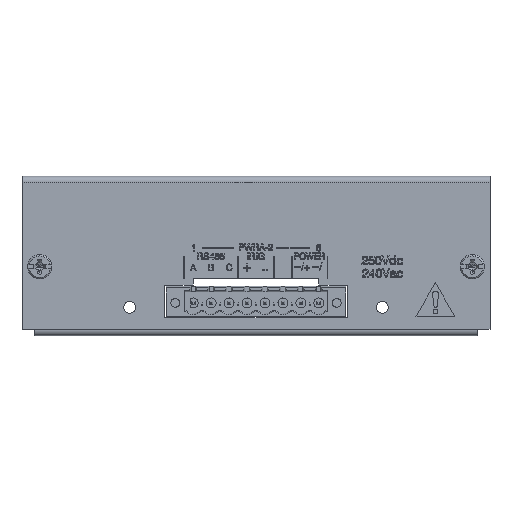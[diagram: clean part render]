
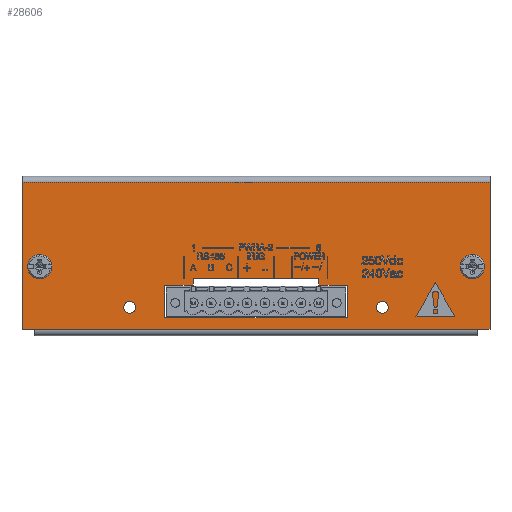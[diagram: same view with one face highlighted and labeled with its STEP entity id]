
A CAD part, top view. The second image highlights one B-rep face of the part: STEP entity #28606.
In plain terms, the highlighted planar face has unit normal (0, 0, 1) as drawn and (0, 1, 0) by its records, which use the part's own axes.
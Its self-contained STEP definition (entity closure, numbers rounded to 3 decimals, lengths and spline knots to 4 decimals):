
#1950=FACE_BOUND('',#5071,.T.);
#1951=FACE_BOUND('',#5072,.T.);
#1952=FACE_BOUND('',#5073,.T.);
#1953=FACE_BOUND('',#5074,.T.);
#1954=FACE_BOUND('',#5075,.T.);
#2097=PLANE('',#30526);
#3385=FACE_OUTER_BOUND('',#5070,.T.);
#5070=EDGE_LOOP('',(#20331,#20332,#20333,#20334,#20335,#20336,#20337,#20338));
#5071=EDGE_LOOP('',(#20339,#20340,#20341,#20342,#20343,#20344,#20345,#20346));
#5072=EDGE_LOOP('',(#20347));
#5073=EDGE_LOOP('',(#20348));
#5074=EDGE_LOOP('',(#20349,#20350));
#5075=EDGE_LOOP('',(#20351,#20352));
#6910=LINE('',#39273,#10040);
#6914=LINE('',#39282,#10044);
#6923=LINE('',#39309,#10053);
#6924=LINE('',#39313,#10054);
#6927=LINE('',#39319,#10057);
#6928=LINE('',#39323,#10058);
#6929=LINE('',#39324,#10059);
#6930=LINE('',#39325,#10060);
#6931=LINE('',#39328,#10061);
#6932=LINE('',#39330,#10062);
#6933=LINE('',#39332,#10063);
#6934=LINE('',#39334,#10064);
#6935=LINE('',#39336,#10065);
#6936=LINE('',#39338,#10066);
#6937=LINE('',#39340,#10067);
#6938=LINE('',#39341,#10068);
#10040=VECTOR('',#32434,0.3937);
#10044=VECTOR('',#32440,0.3937);
#10053=VECTOR('',#32461,0.3937);
#10054=VECTOR('',#32466,0.3937);
#10057=VECTOR('',#32471,0.3937);
#10058=VECTOR('',#32476,0.3937);
#10059=VECTOR('',#32477,0.3937);
#10060=VECTOR('',#32478,0.3937);
#10061=VECTOR('',#32479,0.3937);
#10062=VECTOR('',#32480,0.3937);
#10063=VECTOR('',#32481,0.3937);
#10064=VECTOR('',#32482,0.3937);
#10065=VECTOR('',#32483,0.3937);
#10066=VECTOR('',#32484,0.3937);
#10067=VECTOR('',#32485,0.3937);
#10068=VECTOR('',#32486,0.3937);
#13146=CIRCLE('',#30527,0.095);
#13147=CIRCLE('',#30528,0.095);
#13148=CIRCLE('',#30529,0.066);
#13149=CIRCLE('',#30530,0.066);
#13150=CIRCLE('',#30531,0.066);
#13151=CIRCLE('',#30532,0.066);
#13513=VERTEX_POINT('',#39270);
#13514=VERTEX_POINT('',#39272);
#13517=VERTEX_POINT('',#39279);
#13518=VERTEX_POINT('',#39281);
#13530=VERTEX_POINT('',#39308);
#13531=VERTEX_POINT('',#39312);
#13533=VERTEX_POINT('',#39318);
#13534=VERTEX_POINT('',#39322);
#13535=VERTEX_POINT('',#39326);
#13536=VERTEX_POINT('',#39327);
#13537=VERTEX_POINT('',#39329);
#13538=VERTEX_POINT('',#39331);
#13539=VERTEX_POINT('',#39333);
#13540=VERTEX_POINT('',#39335);
#13541=VERTEX_POINT('',#39337);
#13542=VERTEX_POINT('',#39339);
#13543=VERTEX_POINT('',#39342);
#13544=VERTEX_POINT('',#39344);
#13545=VERTEX_POINT('',#39346);
#13546=VERTEX_POINT('',#39347);
#13547=VERTEX_POINT('',#39350);
#13548=VERTEX_POINT('',#39351);
#16155=EDGE_CURVE('',#13514,#13513,#6910,.T.);
#16159=EDGE_CURVE('',#13518,#13517,#6914,.T.);
#16173=EDGE_CURVE('',#13530,#13514,#6923,.T.);
#16175=EDGE_CURVE('',#13518,#13531,#6924,.T.);
#16178=EDGE_CURVE('',#13533,#13530,#6927,.T.);
#16180=EDGE_CURVE('',#13534,#13513,#6928,.T.);
#16181=EDGE_CURVE('',#13534,#13531,#6929,.T.);
#16182=EDGE_CURVE('',#13517,#13533,#6930,.T.);
#16183=EDGE_CURVE('',#13535,#13536,#6931,.T.);
#16184=EDGE_CURVE('',#13536,#13537,#6932,.T.);
#16185=EDGE_CURVE('',#13537,#13538,#6933,.T.);
#16186=EDGE_CURVE('',#13538,#13539,#6934,.T.);
#16187=EDGE_CURVE('',#13539,#13540,#6935,.T.);
#16188=EDGE_CURVE('',#13540,#13541,#6936,.T.);
#16189=EDGE_CURVE('',#13541,#13542,#6937,.T.);
#16190=EDGE_CURVE('',#13542,#13535,#6938,.T.);
#16191=EDGE_CURVE('',#13543,#13543,#13146,.T.);
#16192=EDGE_CURVE('',#13544,#13544,#13147,.T.);
#16193=EDGE_CURVE('',#13545,#13546,#13148,.T.);
#16194=EDGE_CURVE('',#13546,#13545,#13149,.T.);
#16195=EDGE_CURVE('',#13547,#13548,#13150,.T.);
#16196=EDGE_CURVE('',#13548,#13547,#13151,.T.);
#20331=ORIENTED_EDGE('',*,*,#16173,.T.);
#20332=ORIENTED_EDGE('',*,*,#16155,.T.);
#20333=ORIENTED_EDGE('',*,*,#16180,.F.);
#20334=ORIENTED_EDGE('',*,*,#16181,.T.);
#20335=ORIENTED_EDGE('',*,*,#16175,.F.);
#20336=ORIENTED_EDGE('',*,*,#16159,.T.);
#20337=ORIENTED_EDGE('',*,*,#16182,.T.);
#20338=ORIENTED_EDGE('',*,*,#16178,.T.);
#20339=ORIENTED_EDGE('',*,*,#16183,.T.);
#20340=ORIENTED_EDGE('',*,*,#16184,.T.);
#20341=ORIENTED_EDGE('',*,*,#16185,.T.);
#20342=ORIENTED_EDGE('',*,*,#16186,.T.);
#20343=ORIENTED_EDGE('',*,*,#16187,.T.);
#20344=ORIENTED_EDGE('',*,*,#16188,.T.);
#20345=ORIENTED_EDGE('',*,*,#16189,.T.);
#20346=ORIENTED_EDGE('',*,*,#16190,.T.);
#20347=ORIENTED_EDGE('',*,*,#16191,.T.);
#20348=ORIENTED_EDGE('',*,*,#16192,.T.);
#20349=ORIENTED_EDGE('',*,*,#16193,.T.);
#20350=ORIENTED_EDGE('',*,*,#16194,.T.);
#20351=ORIENTED_EDGE('',*,*,#16195,.T.);
#20352=ORIENTED_EDGE('',*,*,#16196,.T.);
#28606=ADVANCED_FACE('',(#3385,#1950,#1951,#1952,#1953,#1954),#2097,.T.);
#30526=AXIS2_PLACEMENT_3D('',#39321,#32474,#32475);
#30527=AXIS2_PLACEMENT_3D('',#39343,#32487,#32488);
#30528=AXIS2_PLACEMENT_3D('',#39345,#32489,#32490);
#30529=AXIS2_PLACEMENT_3D('',#39348,#32491,#32492);
#30530=AXIS2_PLACEMENT_3D('',#39349,#32493,#32494);
#30531=AXIS2_PLACEMENT_3D('',#39352,#32495,#32496);
#30532=AXIS2_PLACEMENT_3D('',#39353,#32497,#32498);
#32434=DIRECTION('',(1.,0.,0.));
#32440=DIRECTION('',(1.,0.,0.));
#32461=DIRECTION('',(0.,0.,-1.));
#32466=DIRECTION('',(0.,0.,-1.));
#32471=DIRECTION('',(1.,0.,0.));
#32474=DIRECTION('center_axis',(0.,1.,0.));
#32475=DIRECTION('ref_axis',(0.,0.,1.));
#32476=DIRECTION('',(0.,0.,1.));
#32477=DIRECTION('',(-1.,0.,0.));
#32478=DIRECTION('',(0.,0.,1.));
#32479=DIRECTION('',(0.,0.,1.));
#32480=DIRECTION('',(-1.,0.,0.));
#32481=DIRECTION('',(0.,0.,-1.));
#32482=DIRECTION('',(1.,0.,0.));
#32483=DIRECTION('',(0.,0.,-1.));
#32484=DIRECTION('',(1.,0.,0.));
#32485=DIRECTION('',(0.,0.,1.));
#32486=DIRECTION('',(1.,0.,0.));
#32487=DIRECTION('center_axis',(0.,-1.,0.));
#32488=DIRECTION('ref_axis',(1.,0.,0.));
#32489=DIRECTION('center_axis',(0.,-1.,0.));
#32490=DIRECTION('ref_axis',(1.,0.,0.));
#32491=DIRECTION('center_axis',(0.,-1.,0.));
#32492=DIRECTION('ref_axis',(1.,0.,0.));
#32493=DIRECTION('center_axis',(0.,-1.,0.));
#32494=DIRECTION('ref_axis',(1.,0.,0.));
#32495=DIRECTION('center_axis',(0.,-1.,0.));
#32496=DIRECTION('ref_axis',(-1.,0.,0.));
#32497=DIRECTION('center_axis',(0.,-1.,0.));
#32498=DIRECTION('ref_axis',(-1.,0.,0.));
#39270=CARTESIAN_POINT('',(2.61,0.0359,0.82));
#39272=CARTESIAN_POINT('',(2.475,0.0359,0.82));
#39273=CARTESIAN_POINT('',(1.2787,0.0359,0.82));
#39279=CARTESIAN_POINT('',(-2.475,0.0359,0.82));
#39281=CARTESIAN_POINT('',(-2.61,0.0359,0.82));
#39282=CARTESIAN_POINT('',(-1.2851,0.0359,0.82));
#39308=CARTESIAN_POINT('',(2.475,0.0359,0.8229));
#39309=CARTESIAN_POINT('',(2.475,0.0359,0.445));
#39312=CARTESIAN_POINT('',(-2.61,0.0359,-0.8229));
#39313=CARTESIAN_POINT('',(-2.61,0.0359,0.89));
#39318=CARTESIAN_POINT('',(-2.475,0.0359,0.8229));
#39319=CARTESIAN_POINT('',(-1.305,0.0359,0.8229));
#39321=CARTESIAN_POINT('Origin',(0.,0.0359,0.));
#39322=CARTESIAN_POINT('',(2.61,0.0359,-0.8229));
#39323=CARTESIAN_POINT('',(2.61,0.0359,-0.89));
#39324=CARTESIAN_POINT('',(1.305,0.0359,-0.8229));
#39325=CARTESIAN_POINT('',(-2.475,0.0359,0.445));
#39326=CARTESIAN_POINT('',(1.02,0.0359,0.325));
#39327=CARTESIAN_POINT('',(1.02,0.0359,0.69));
#39328=CARTESIAN_POINT('',(1.02,0.0359,0.345));
#39329=CARTESIAN_POINT('',(-1.02,0.0359,0.69));
#39330=CARTESIAN_POINT('',(-0.51,0.0359,0.69));
#39331=CARTESIAN_POINT('',(-1.02,0.0359,0.325));
#39332=CARTESIAN_POINT('',(-1.02,0.0359,0.125));
#39333=CARTESIAN_POINT('',(-0.7,0.0359,0.325));
#39334=CARTESIAN_POINT('',(-1.02,0.0359,0.325));
#39335=CARTESIAN_POINT('',(-0.7,0.0359,0.25));
#39336=CARTESIAN_POINT('',(-0.7,0.0359,0.325));
#39337=CARTESIAN_POINT('',(0.7,0.0359,0.25));
#39338=CARTESIAN_POINT('',(0.51,0.0359,0.25));
#39339=CARTESIAN_POINT('',(0.7,0.0359,0.325));
#39340=CARTESIAN_POINT('',(0.7,0.0359,0.25));
#39341=CARTESIAN_POINT('',(0.7,0.0359,0.325));
#39342=CARTESIAN_POINT('',(-2.507,0.0359,0.12));
#39343=CARTESIAN_POINT('Origin',(-2.412,0.0359,0.12));
#39344=CARTESIAN_POINT('',(2.317,0.0359,0.12));
#39345=CARTESIAN_POINT('Origin',(2.412,0.0359,0.12));
#39346=CARTESIAN_POINT('',(-1.344,0.0359,0.572));
#39347=CARTESIAN_POINT('',(-1.476,0.0359,0.572));
#39348=CARTESIAN_POINT('Origin',(-1.41,0.0359,0.572));
#39349=CARTESIAN_POINT('Origin',(-1.41,0.0359,0.572));
#39350=CARTESIAN_POINT('',(1.344,0.0359,0.572));
#39351=CARTESIAN_POINT('',(1.476,0.0359,0.572));
#39352=CARTESIAN_POINT('Origin',(1.41,0.0359,0.572));
#39353=CARTESIAN_POINT('Origin',(1.41,0.0359,0.572));
